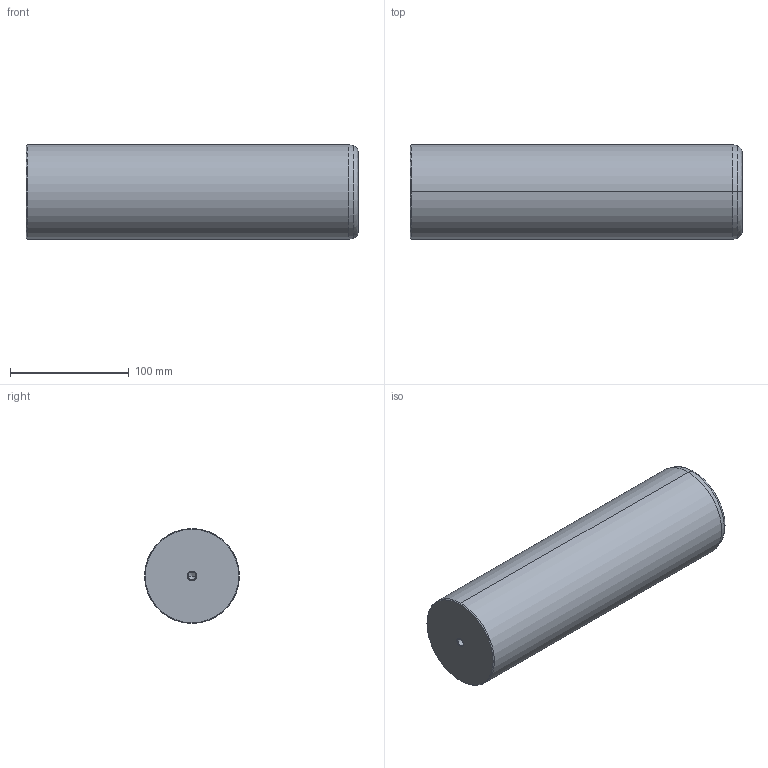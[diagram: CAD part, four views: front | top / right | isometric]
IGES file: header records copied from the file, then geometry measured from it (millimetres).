
Start section: START RECORD GO HERE.
Global section: file name: 720-80x280.igs; native system: DASSAULT SYSTEMES CATIA V5 R20 - www.3ds.com; preprocessor: CATIA Version 5 Release 20 ; author: Utente; organization: NB04-ASUS; date: 20201230.222402; units: millimetre
Bounding box: 280 x 80 x 80 mm (x, y, z)
Surface area: 80530.6 mm2 (no closed solid volume)
Topology: 0 solids, 0 shells, 22 faces, 108 edges, 104 vertices
Faces by surface type: revolution 20, plane 2
